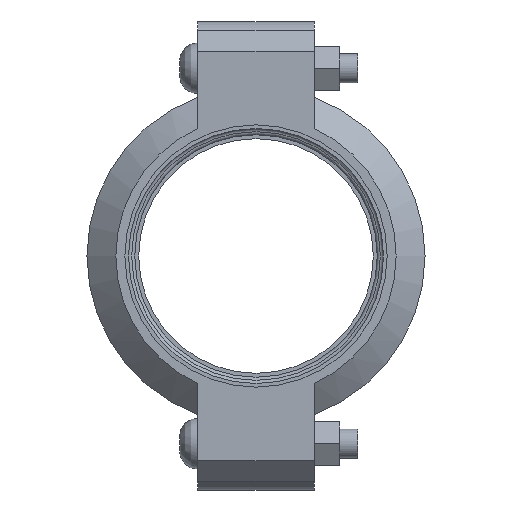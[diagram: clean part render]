
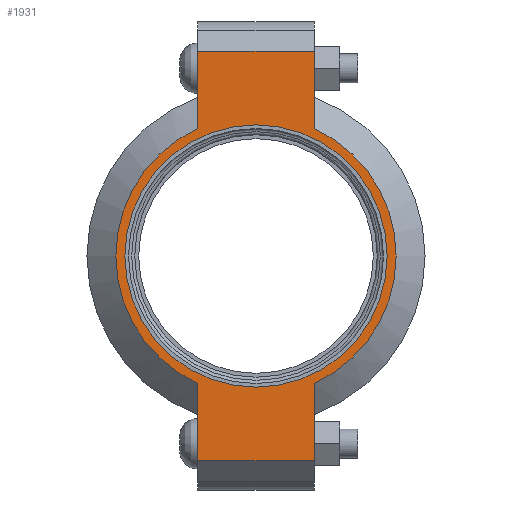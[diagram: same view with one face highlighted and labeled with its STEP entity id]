
A CAD part, left-side view. The second image highlights one B-rep face of the part: STEP entity #1931.
In plain terms, the highlighted planar face has unit normal (-1, 0, 0) as drawn and (0, 0, 1) by its records, which use the part's own axes.
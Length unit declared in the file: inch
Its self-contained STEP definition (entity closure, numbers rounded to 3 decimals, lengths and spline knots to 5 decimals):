
#120=LINE('',#3423,#217);
#128=LINE('',#3459,#225);
#135=LINE('',#3480,#232);
#144=LINE('',#3512,#241);
#145=LINE('',#3516,#242);
#146=LINE('',#3518,#243);
#217=VECTOR('',#2795,0.3937);
#225=VECTOR('',#2811,0.3937);
#232=VECTOR('',#2830,0.3937);
#241=VECTOR('',#2855,0.3937);
#242=VECTOR('',#2860,0.3937);
#243=VECTOR('',#2861,0.3937);
#299=FACE_BOUND('',#549,.T.);
#343=PLANE('',#2270);
#431=FACE_OUTER_BOUND('',#548,.T.);
#548=EDGE_LOOP('',(#1652,#1653,#1654,#1655,#1656,#1657,#1658,#1659));
#549=EDGE_LOOP('',(#1660));
#721=CIRCLE('',#2271,2.405);
#722=CIRCLE('',#2272,2.405);
#723=CIRCLE('',#2273,2.25);
#885=VERTEX_POINT('',#3420);
#886=VERTEX_POINT('',#3422);
#897=VERTEX_POINT('',#3454);
#898=VERTEX_POINT('',#3458);
#905=VERTEX_POINT('',#3477);
#906=VERTEX_POINT('',#3479);
#916=VERTEX_POINT('',#3515);
#917=VERTEX_POINT('',#3517);
#918=VERTEX_POINT('',#3520);
#1130=EDGE_CURVE('',#886,#885,#120,.T.);
#1144=EDGE_CURVE('',#898,#897,#128,.T.);
#1154=EDGE_CURVE('',#906,#905,#135,.T.);
#1169=EDGE_CURVE('',#898,#885,#144,.T.);
#1170=EDGE_CURVE('',#897,#906,#721,.T.);
#1171=EDGE_CURVE('',#916,#905,#145,.T.);
#1172=EDGE_CURVE('',#916,#917,#146,.T.);
#1173=EDGE_CURVE('',#917,#886,#722,.T.);
#1174=EDGE_CURVE('',#918,#918,#723,.T.);
#1652=ORIENTED_EDGE('',*,*,#1169,.F.);
#1653=ORIENTED_EDGE('',*,*,#1144,.T.);
#1654=ORIENTED_EDGE('',*,*,#1170,.T.);
#1655=ORIENTED_EDGE('',*,*,#1154,.T.);
#1656=ORIENTED_EDGE('',*,*,#1171,.F.);
#1657=ORIENTED_EDGE('',*,*,#1172,.T.);
#1658=ORIENTED_EDGE('',*,*,#1173,.T.);
#1659=ORIENTED_EDGE('',*,*,#1130,.T.);
#1660=ORIENTED_EDGE('',*,*,#1174,.T.);
#1931=ADVANCED_FACE('',(#431,#299),#343,.T.);
#2270=AXIS2_PLACEMENT_3D('',#3513,#2856,#2857);
#2271=AXIS2_PLACEMENT_3D('',#3514,#2858,#2859);
#2272=AXIS2_PLACEMENT_3D('',#3519,#2862,#2863);
#2273=AXIS2_PLACEMENT_3D('',#3521,#2864,#2865);
#2795=DIRECTION('',(1.,0.,0.));
#2811=DIRECTION('',(-1.,0.,0.));
#2830=DIRECTION('',(-1.,0.,0.));
#2855=DIRECTION('',(0.,-1.,0.));
#2856=DIRECTION('center_axis',(0.,0.,1.));
#2857=DIRECTION('ref_axis',(-1.,0.,0.));
#2858=DIRECTION('center_axis',(0.,0.,1.));
#2859=DIRECTION('ref_axis',(1.,0.,0.));
#2860=DIRECTION('',(0.,1.,0.));
#2861=DIRECTION('',(1.,0.,0.));
#2862=DIRECTION('center_axis',(0.,0.,1.));
#2863=DIRECTION('ref_axis',(1.,0.,0.));
#2864=DIRECTION('center_axis',(0.,0.,-1.));
#2865=DIRECTION('ref_axis',(1.,0.,0.));
#3420=CARTESIAN_POINT('',(3.515,-1.,1.065));
#3422=CARTESIAN_POINT('',(2.18724,-1.,1.065));
#3423=CARTESIAN_POINT('',(4.015,-1.,1.065));
#3454=CARTESIAN_POINT('',(2.18724,1.,1.065));
#3458=CARTESIAN_POINT('',(3.515,1.,1.065));
#3459=CARTESIAN_POINT('',(-4.015,1.,1.065));
#3477=CARTESIAN_POINT('',(-3.515,1.,1.065));
#3479=CARTESIAN_POINT('',(-2.18724,1.,1.065));
#3480=CARTESIAN_POINT('',(-4.015,1.,1.065));
#3512=CARTESIAN_POINT('',(3.515,-0.5,1.065));
#3513=CARTESIAN_POINT('Origin',(0.,0.,
1.065));
#3514=CARTESIAN_POINT('Origin',(0.,0.,1.065));
#3515=CARTESIAN_POINT('',(-3.515,-1.,1.065));
#3516=CARTESIAN_POINT('',(-3.515,0.5,1.065));
#3517=CARTESIAN_POINT('',(-2.18724,-1.,1.065));
#3518=CARTESIAN_POINT('',(4.015,-1.,1.065));
#3519=CARTESIAN_POINT('Origin',(0.,0.,1.065));
#3520=CARTESIAN_POINT('',(-2.25,0.,1.065));
#3521=CARTESIAN_POINT('Origin',(0.,0.,1.065));
